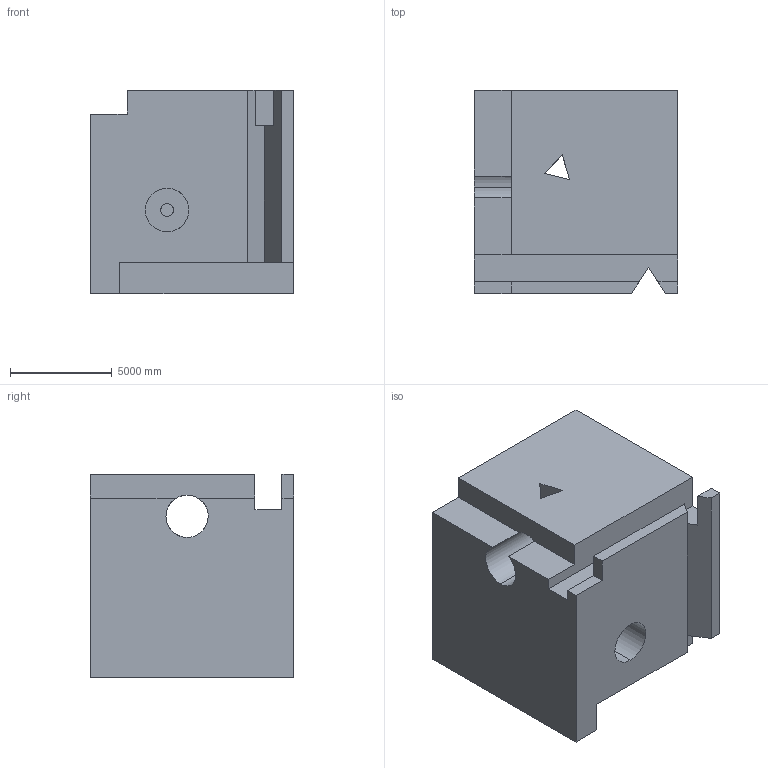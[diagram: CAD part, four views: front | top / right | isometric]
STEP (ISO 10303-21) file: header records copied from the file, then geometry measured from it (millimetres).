
FILE_DESCRIPTION (( 'STEP AP203' ), '1' );
FILE_NAME ('751.STEP', '2022-07-29T12:57:08', ( 'user' ), ( '' ), 'SwSTEP 2.0', 'SolidWorks 2021', '' );
FILE_SCHEMA (( 'CONFIG_CONTROL_DESIGN' ));
Length unit declared in the file: centimetre
Products named in the file (1): 751
Bounding box: 10000 x 10000 x 10000 mm (x, y, z)
Volume: 853998507493.8 mm3; surface area: 767987901.2 mm2
Topology: 1 solids, 1 shells, 41 faces, 120 edges, 80 vertices
Faces by surface type: plane 33, cylinder 8
Entity records: 1443 total; most frequent: CARTESIAN_POINT 290, ORIENTED_EDGE 240, DIRECTION 204, EDGE_CURVE 120, VECTOR 88, LINE 88, VERTEX_POINT 80, AXIS2_PLACEMENT_3D 58
